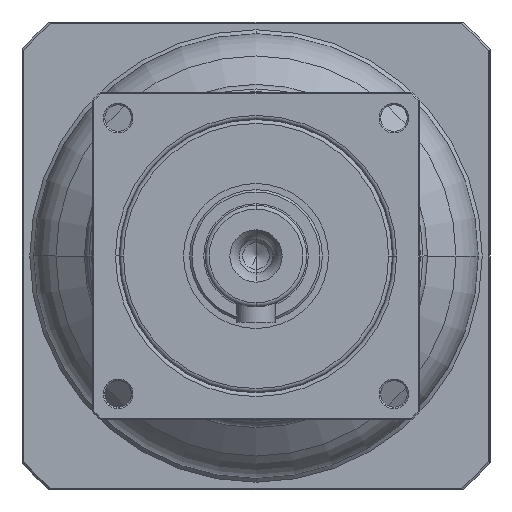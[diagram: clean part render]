
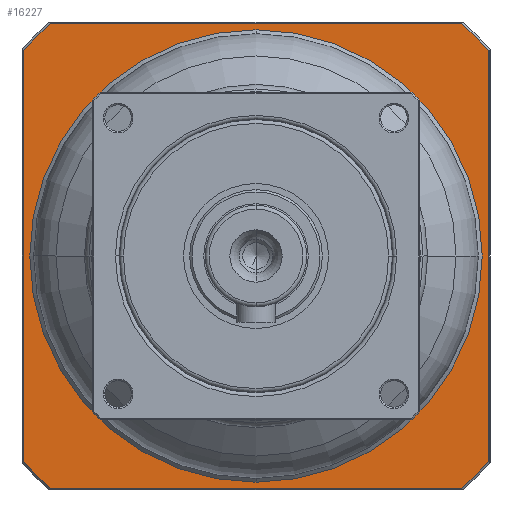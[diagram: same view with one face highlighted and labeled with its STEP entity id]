
A CAD part, left-side view. The second image highlights one B-rep face of the part: STEP entity #16227.
In plain terms, the highlighted planar face has unit normal (-1, 0, 0) as drawn and (0, 0, -1) by its records, which use the part's own axes.
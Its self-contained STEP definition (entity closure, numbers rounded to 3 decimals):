
#15101=CARTESIAN_POINT('',(0.,0.,
2.));
#15102=DIRECTION('',(0.,0.,-1.));
#15103=DIRECTION('',(0.,-1.,0.));
#15104=AXIS2_PLACEMENT_3D('',#15101,#15102,#15103);
#15106=CARTESIAN_POINT('',(0.,0.,
2.));
#15107=DIRECTION('',(0.,0.,-1.));
#15108=DIRECTION('',(0.,1.,0.));
#15109=AXIS2_PLACEMENT_3D('',#15106,#15107,#15108);
#15111=CARTESIAN_POINT('',(0.,0.,2.));
#15112=DIRECTION('',(0.,0.,1.));
#15113=DIRECTION('',(-0.749,-0.663,0.));
#15114=AXIS2_PLACEMENT_3D('',#15111,#15112,#15113);
#15116=DIRECTION('',(1.,0.,0.));
#15117=VECTOR('',#15116,52.764);
#15118=CARTESIAN_POINT('',(-26.382,-29.8,
2.));
#15119=LINE('',#15118,#15117);
#15120=CARTESIAN_POINT('',(0.,0.,2.));
#15121=DIRECTION('',(0.,0.,1.));
#15122=DIRECTION('',(0.663,-0.749,0.));
#15123=AXIS2_PLACEMENT_3D('',#15120,#15121,#15122);
#15125=DIRECTION('',(0.,1.,0.));
#15126=VECTOR('',#15125,52.764);
#15127=CARTESIAN_POINT('',(29.8,-26.382,
2.));
#15128=LINE('',#15127,#15126);
#15129=CARTESIAN_POINT('',(0.,0.,2.));
#15130=DIRECTION('',(0.,0.,1.));
#15131=DIRECTION('',(0.749,0.663,0.));
#15132=AXIS2_PLACEMENT_3D('',#15129,#15130,#15131);
#15134=DIRECTION('',(-1.,0.,0.));
#15135=VECTOR('',#15134,52.764);
#15136=CARTESIAN_POINT('',(26.382,29.8,2.));
#15137=LINE('',#15136,#15135);
#15138=CARTESIAN_POINT('',(0.,0.,2.));
#15139=DIRECTION('',(0.,0.,1.));
#15140=DIRECTION('',(-0.663,0.749,0.));
#15141=AXIS2_PLACEMENT_3D('',#15138,#15139,#15140);
#15143=DIRECTION('',(0.,-1.,0.));
#15144=VECTOR('',#15143,52.764);
#15145=CARTESIAN_POINT('',(-29.8,26.382,
2.));
#15146=LINE('',#15145,#15144);
#15882=CARTESIAN_POINT('',(0.,-29.,2.));
#15883=CARTESIAN_POINT('',(0.,29.,2.));
#15884=VERTEX_POINT('',#15882);
#15885=VERTEX_POINT('',#15883);
#15954=CARTESIAN_POINT('',(-29.8,-26.382,2.));
#15955=CARTESIAN_POINT('',(-26.382,-29.8,2.));
#15956=VERTEX_POINT('',#15954);
#15957=VERTEX_POINT('',#15955);
#15962=CARTESIAN_POINT('',(26.382,-29.8,
2.));
#15963=VERTEX_POINT('',#15962);
#15966=CARTESIAN_POINT('',(29.8,-26.382,2.));
#15967=VERTEX_POINT('',#15966);
#15970=CARTESIAN_POINT('',(29.8,26.382,2.));
#15971=VERTEX_POINT('',#15970);
#15974=CARTESIAN_POINT('',(26.382,29.8,2.));
#15975=VERTEX_POINT('',#15974);
#15978=CARTESIAN_POINT('',(-26.382,29.8,
2.));
#15979=VERTEX_POINT('',#15978);
#15984=CARTESIAN_POINT('',(-29.8,26.382,2.));
#15985=VERTEX_POINT('',#15984);
#16199=CARTESIAN_POINT('',(0.,0.,2.));
#16200=DIRECTION('',(0.,0.,1.));
#16201=DIRECTION('',(0.,1.,0.));
#16202=AXIS2_PLACEMENT_3D('',#16199,#16200,#16201);
#16203=PLANE('',#16202);
#16205=ORIENTED_EDGE('',*,*,#16204,.T.);
#16207=ORIENTED_EDGE('',*,*,#16206,.T.);
#16209=ORIENTED_EDGE('',*,*,#16208,.T.);
#16211=ORIENTED_EDGE('',*,*,#16210,.T.);
#16213=ORIENTED_EDGE('',*,*,#16212,.T.);
#16215=ORIENTED_EDGE('',*,*,#16214,.T.);
#16217=ORIENTED_EDGE('',*,*,#16216,.T.);
#16219=ORIENTED_EDGE('',*,*,#16218,.T.);
#16220=EDGE_LOOP('',(#16205,#16207,#16209,#16211,#16213,#16215,#16217,#16219));
#16221=FACE_OUTER_BOUND('',#16220,.F.);
#16223=ORIENTED_EDGE('',*,*,#16222,.T.);
#16224=ORIENTED_EDGE('',*,*,#16189,.T.);
#16225=EDGE_LOOP('',(#16223,#16224));
#16226=FACE_BOUND('',#16225,.F.);
#16227=ADVANCED_FACE('',(#16221,#16226),#16203,.F.);
#15105=CIRCLE('',#15104,29.);
#15110=CIRCLE('',#15109,29.);
#15115=CIRCLE('',#15114,39.8);
#15124=CIRCLE('',#15123,39.8);
#15133=CIRCLE('',#15132,39.8);
#15142=CIRCLE('',#15141,39.8);
#16189=EDGE_CURVE('',#15885,#15884,#15110,.T.);
#16204=EDGE_CURVE('',#15956,#15957,#15115,.T.);
#16206=EDGE_CURVE('',#15957,#15963,#15119,.T.);
#16208=EDGE_CURVE('',#15963,#15967,#15124,.T.);
#16210=EDGE_CURVE('',#15967,#15971,#15128,.T.);
#16212=EDGE_CURVE('',#15971,#15975,#15133,.T.);
#16214=EDGE_CURVE('',#15975,#15979,#15137,.T.);
#16216=EDGE_CURVE('',#15979,#15985,#15142,.T.);
#16218=EDGE_CURVE('',#15985,#15956,#15146,.T.);
#16222=EDGE_CURVE('',#15884,#15885,#15105,.T.);
